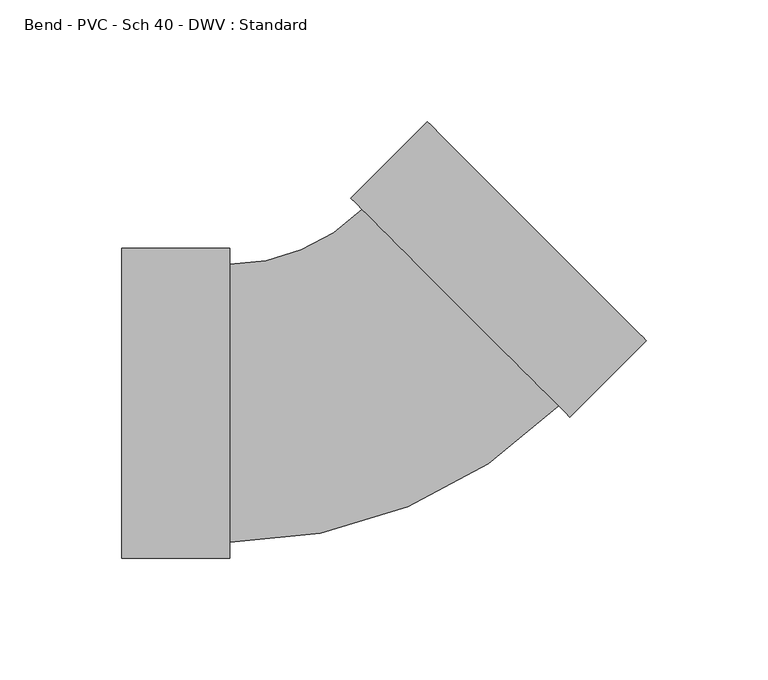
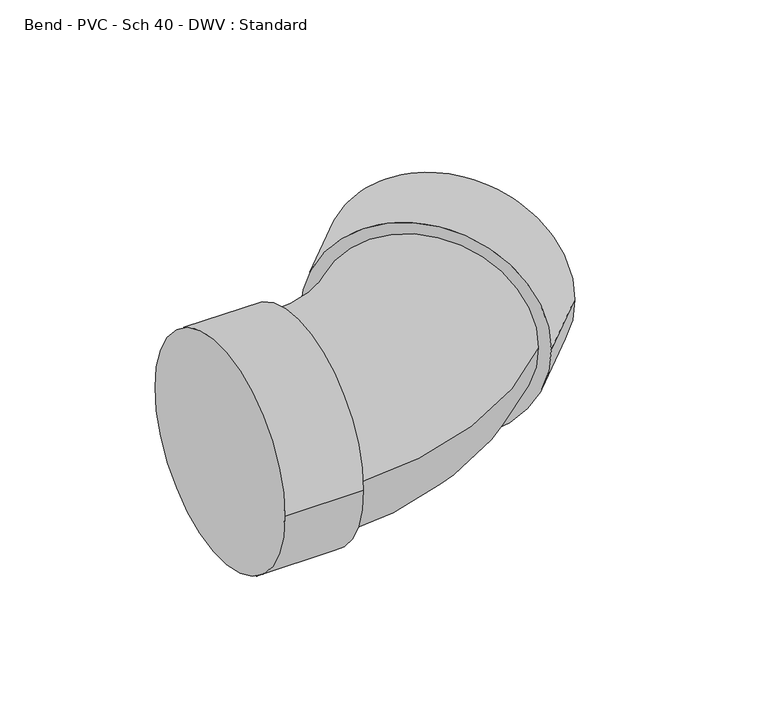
"""IFC4 building model written with IfcOpenShell, lengths in millimetres: pipe fitting geometry, Bend - PVC - Sch 40 - DWV : Standard."""

import ifcopenshell
import ifcopenshell.guid

model = None  # the IFC model being written
_history = None  # IfcOwnerHistory: only IFC2X3 demands one
_inside = {}  # id of a spatial element -> (the spatial element, [elements in it])
_under = {}  # id of a project, library or spatial element -> (it, [spatial elements below it])
_declared = {}  # id of a project -> (the project, [libraries it declares])
_typed = {}  # id of a type object -> (the type object, [elements of that type])
_made_of = {}  # id of a material, layer set ... -> (it, [elements and type objects made of it])


def new_model(schema):
    """Start an empty IFC model of exactly this schema.

    Asked for "IFC4X3", IfcOpenShell would pick the latest addendum, in which some entities
    have other attributes; the version numbers below select the first issue.
    IFC2X3 requires an IfcOwnerHistory on every rooted entity: one is made here for all.
    """
    global model, _history
    if schema == "IFC4X3":
        model = ifcopenshell.file(schema_version=(4, 3, 0, 0))
    else:
        model = ifcopenshell.file(schema=schema)
    _inside.clear()
    _under.clear()
    _declared.clear()
    _typed.clear()
    _made_of.clear()
    _history = None
    if model.schema == "IFC2X3":
        org = make("IfcOrganization", Name="unknown")
        user = make(
            "IfcPersonAndOrganization",
            ThePerson=make("IfcPerson", FamilyName="unknown"),
            TheOrganization=org,
        )
        app = make(
            "IfcApplication",
            ApplicationDeveloper=org,
            Version="unknown",
            ApplicationFullName="unknown",
            ApplicationIdentifier="unknown",
        )
        _history = make(
            "IfcOwnerHistory",
            OwningUser=user,
            OwningApplication=app,
            ChangeAction="ADDED",
            CreationDate=0,
        )
    return model


def make(cls, **values):
    """One entity of the class cls with the attributes given. An attribute that is None is left unset."""
    return model.create_entity(
        cls, **{name: value for name, value in values.items() if value is not None}
    )


def rooted(cls, **values):
    """An entity with a GlobalId (a new one), such as an element, a storey or a relation."""
    return make(cls, GlobalId=ifcopenshell.guid.new(), OwnerHistory=_history, **values)


def si_unit(unit_type, name, prefix=None):
    """IfcSIUnit, for example si_unit("LENGTHUNIT", "METRE", prefix="MILLI")."""
    return make("IfcSIUnit", UnitType=unit_type, Prefix=prefix, Name=name)


def assignment(units):
    """IfcUnitAssignment: the units of a project."""
    return None if units is None else make("IfcUnitAssignment", Units=units)


def point(xyz):
    """IfcCartesianPoint."""
    return None if xyz is None else make("IfcCartesianPoint", Coordinates=xyz)


def direction(xyz):
    """IfcDirection."""
    return None if xyz is None else make("IfcDirection", DirectionRatios=xyz)


def frame(location, z_axis=None, x_axis=None):
    """IfcAxis2Placement3D, a coordinate frame: its origin and axes. An axis left out is left unset."""
    return make(
        "IfcAxis2Placement3D",
        Location=point(location),
        Axis=direction(z_axis),
        RefDirection=direction(x_axis),
    )


def origin():
    """The frame at (0, 0, 0) with its axes left unset."""
    return frame((0.0, 0.0, 0.0))


def place(relative_to, where):
    """IfcLocalPlacement: puts the frame where relative to a parent placement (None: the world)."""
    return make(
        "IfcLocalPlacement", PlacementRelTo=relative_to, RelativePlacement=where
    )


def context(
    kind, dimensions, precision=None, world=None, true_north=None, identifier=None
):
    """IfcGeometricRepresentationContext, for example the 3D "Model" context."""
    return make(
        "IfcGeometricRepresentationContext",
        ContextIdentifier=identifier,
        ContextType=kind,
        CoordinateSpaceDimension=dimensions,
        Precision=precision,
        WorldCoordinateSystem=world,
        TrueNorth=true_north,
    )


def project(units=None, contexts=None):
    """IfcProject with its units and contexts."""
    return rooted(
        "IfcProject",
        Name="project",
        RepresentationContexts=contexts,
        UnitsInContext=assignment(units),
    )


def spatial(cls, under=None, at=None, **own):
    """A site, building, storey or space (cls), placed at a placement, below another one or the project."""
    s = rooted(cls, ObjectPlacement=at, **own)
    if under is not None:
        _under.setdefault(under.id(), (under, []))[1].append(s)
    return s


def circle_curve(where, radius):
    """IfcCircle in the frame where."""
    return make("IfcCircle", Position=where, Radius=radius)


def ellipse_curve(where, semi_axis1, semi_axis2):
    """IfcEllipse in the frame where."""
    return make(
        "IfcEllipse", Position=where, SemiAxis1=semi_axis1, SemiAxis2=semi_axis2
    )


def trimmed(basis, trim1, trim2, sense, master):
    """IfcTrimmedCurve: the piece of a basis curve between two trims."""
    return make(
        "IfcTrimmedCurve",
        BasisCurve=basis,
        Trim1=trim1,
        Trim2=trim2,
        SenseAgreement=sense,
        MasterRepresentation=master,
    )


def shape(context_of_items, identifier, shape_type, items):
    """IfcShapeRepresentation: the items that make up one representation, for example the "Body"."""
    return make(
        "IfcShapeRepresentation",
        ContextOfItems=context_of_items,
        RepresentationIdentifier=identifier,
        RepresentationType=shape_type,
        Items=items,
    )


def source(mapping_origin, context_of_items, identifier, shape_type, items):
    """IfcRepresentationMap: a shape defined once, which mapped items show again and again."""
    return make(
        "IfcRepresentationMap",
        MappingOrigin=mapping_origin,
        MappedRepresentation=shape(context_of_items, identifier, shape_type, items),
    )


def transform(
    local_origin,
    x_axis=None,
    y_axis=None,
    z_axis=None,
    scale=None,
    scale2=None,
    scale3=None,
    uniform=True,
):
    """IfcCartesianTransformationOperator3D, or its non-uniform kind. x_axis, y_axis, z_axis: its Axis1, 2, 3."""
    if uniform:
        return make(
            "IfcCartesianTransformationOperator3D",
            Axis1=direction(x_axis),
            Axis2=direction(y_axis),
            LocalOrigin=point(local_origin),
            Scale=scale,
            Axis3=direction(z_axis),
        )
    return make(
        "IfcCartesianTransformationOperator3DnonUniform",
        Axis1=direction(x_axis),
        Axis2=direction(y_axis),
        LocalOrigin=point(local_origin),
        Scale=scale,
        Axis3=direction(z_axis),
        Scale2=scale2,
        Scale3=scale3,
    )


def mapped(mapping_source, mapping_target):
    """IfcMappedItem: shows the shape of a source again, moved by a transform."""
    return make(
        "IfcMappedItem", MappingSource=mapping_source, MappingTarget=mapping_target
    )


def made_of(thing, what):
    """Note that an element or type object is made of a material, layer set ...; save() writes the relation."""
    if what is not None:
        _made_of.setdefault(what.id(), (what, []))[1].append(thing)
    return thing


def element(
    cls,
    number,
    at=None,
    inside=None,
    cuts=None,
    type_object=None,
    material=None,
    context=None,
    identifier="Body",
    shape_type=None,
    held_by="IfcProductDefinitionShape",
    body=None,
    shapes=None,
    **own,
):
    """One element of the class cls, such as IfcWall. Its Tag is "e" and its number.

    at: its placement. inside: the storey or other place that contains it. cuts: it is an
    opening in that element (IfcRelVoidsElement). A single representation is given by context,
    identifier, shape_type and body (its items); several are given by shapes. held_by: the class
    of the entity that holds the representations. save() writes the other relations.
    """
    e = rooted(cls, Tag="e%d" % number, ObjectPlacement=at, **own)
    if body is not None:
        shapes = [shape(context, identifier, shape_type, body)]
    if shapes is not None:
        e.Representation = make(held_by, Representations=shapes)
    if inside is not None:
        _inside.setdefault(inside.id(), (inside, []))[1].append(e)
    if cuts is not None:
        rooted(
            "IfcRelVoidsElement", RelatingBuildingElement=cuts, RelatedOpeningElement=e
        )
    if type_object is not None:
        _typed.setdefault(type_object.id(), (type_object, []))[1].append(e)
    return made_of(e, material)


def aggregate(whole, parts):
    """IfcRelAggregates: a whole, such as a stair, and the parts it consists of."""
    return rooted("IfcRelAggregates", RelatingObject=whole, RelatedObjects=parts)


def save(model, path):
    """Write the relations noted so far, then the file.

    IfcRelAggregates (storeys below a building ...), IfcRelContainedInSpatialStructure (elements
    in a storey), IfcRelDefinesByType, IfcRelAssociatesMaterial and IfcRelDeclares: one each for
    every whole, place, type object, material and project.
    """
    for whole, parts in _under.values():
        aggregate(whole, parts)
    for where, things in _inside.values():
        rooted(
            "IfcRelContainedInSpatialStructure",
            RelatedElements=things,
            RelatingStructure=where,
        )
    for kind, things in _typed.values():
        rooted("IfcRelDefinesByType", RelatedObjects=things, RelatingType=kind)
    for what, things in _made_of.values():
        rooted("IfcRelAssociatesMaterial", RelatedObjects=things, RelatingMaterial=what)
    for by, libraries in _declared.values():
        rooted("IfcRelDeclares", RelatingContext=by, RelatedDefinitions=libraries)
    model.write(path)


def plane_surface(at):
    """IfcPlane: the flat surface through the origin of the frame at, square to its z axis."""
    return make("IfcPlane", Position=at)


def cylinder_surface(at, radius):
    """IfcCylindricalSurface: all points at the distance radius from the z axis of the frame at."""
    return make("IfcCylindricalSurface", Position=at, Radius=radius)


def revolved_surface(curve, axis_point, axis_direction):
    """IfcSurfaceOfRevolution: the curve turned about the line through axis_point along axis_direction."""
    return make(
        "IfcSurfaceOfRevolution",
        SweptCurve=make("IfcArbitraryOpenProfileDef", ProfileType="CURVE", Curve=curve),
        AxisPosition=make("IfcAxis1Placement", Location=point(axis_point), Axis=direction(axis_direction)),
    )


def advanced_brep(points, edges, surfaces, faces):
    """IfcAdvancedBrep: a solid bounded by faces that lie on surfaces and meet in shared edges.

    An edge is (start, end): straight between two places in points (the first is 0);
    or (start, end, curve); or (start, end, curve, False) where it runs against its curve.
    A face is (place in surfaces, loops), or (place, loops, False) where it looks against
    its surface's normal. A loop lists edges by number (the first is 1), with a minus sign
    where the edge is run from its end to its start. The first loop is the outer one.
    """
    corners = [point(p) for p in points]
    vertices = [make("IfcVertexPoint", VertexGeometry=c) for c in corners]
    made = []
    for start, end, *more in edges:
        made.append(
            make(
                "IfcEdgeCurve",
                EdgeStart=vertices[start],
                EdgeEnd=vertices[end],
                EdgeGeometry=more[0] if more else make("IfcPolyline", Points=[corners[start], corners[end]]),
                SameSense=more[1] if len(more) > 1 else True,
            )
        )
    hull = []
    for where, loops, *sense in faces:
        bounds = []
        for j, loop in enumerate(loops):
            ring = [make("IfcOrientedEdge", EdgeElement=made[abs(k) - 1], Orientation=k > 0) for k in loop]
            bounds.append(
                make(
                    "IfcFaceOuterBound" if j == 0 else "IfcFaceBound",
                    Bound=make("IfcEdgeLoop", EdgeList=ring),
                    Orientation=True,
                )
            )
        hull.append(make("IfcAdvancedFace", Bounds=bounds, FaceSurface=surfaces[where], SameSense=sense[0] if sense else True))
    return make("IfcAdvancedBrep", Outer=make("IfcClosedShell", CfsFaces=hull))


def bend_pvc_sch_40_dwv_standard_279b8fe5(model_context):
    return source(origin(), model_context, "Body", "AdvancedBrep", [
        advanced_brep(
        [(-100.0252, -63.754, 0.0), (-100.0252, 63.754, 0.0), (-55.5752, -63.754, 0.0), (-55.5752, 63.754, 0.0), (-55.5752, -57.15, 0.0), (-55.5752, 57.15, 0.0), (-1.112266, 79.7087713, 0.0), (79.7087354, -1.1148375, 0.0), (84.3783932, -5.784646, 0.0), (-5.7819238, 84.3785798, 0.0), (115.8097966, 25.6457434, 0.0), (25.6494796, 115.8089692, 0.0)],
        [
            (0, 1, circle_curve(frame((-100.0252, 0.0, 0.0), z_axis=(-1.0, 0.0, 0.0), x_axis=(0.0, 1.0, 0.0)), 63.754)),
            (1, 0, circle_curve(frame((-100.0252, 0.0, 0.0), z_axis=(-1.0, 0.0, 0.0), x_axis=(0.0, 1.0, 0.0)), 63.754)),
            (2, 3, circle_curve(frame((-55.5752, 0.0, 0.0), z_axis=(1.0, 0.0, 0.0), x_axis=(0.0, 1.0, 0.0)), 63.754)),
            (3, 2, circle_curve(frame((-55.5752, 0.0, 0.0), z_axis=(1.0, 0.0, 0.0), x_axis=(0.0, 1.0, 0.0)), 63.754)),
            (4, 5, circle_curve(frame((-55.5752, 0.0, 0.0), z_axis=(-1.0, 0.0, 0.0), x_axis=(0.0, 1.0, 0.0)), 57.15)),
            (5, 4, circle_curve(frame((-55.5752, 0.0, 0.0), z_axis=(-1.0, 0.0, 0.0), x_axis=(0.0, 1.0, 0.0)), 57.15)),
            (0, 2),
            (3, 1),
            (6, 5, circle_curve(frame((-55.5752, 134.1734624, 0.0), z_axis=(0.0, 0.0, -1.0), x_axis=(0.0, -1.0, 0.0)), 77.0234624)),
            (4, 7, circle_curve(frame((-55.5752, 134.1734624, 0.0), z_axis=(0.0, 0.0, 1.0), x_axis=(0.0, -1.0, 0.0)), 191.3234624)),
            (7, 6, circle_curve(frame((39.2982347, 39.2969669, 0.0), z_axis=(-0.7071181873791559, -0.7070953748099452, 0.0), x_axis=(-0.7070953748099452, 0.7071181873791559, 0.0)), 57.15)),
            (6, 7, circle_curve(frame((39.2982347, 39.2969669, 0.0), z_axis=(-0.7071181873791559, -0.7070953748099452, 0.0), x_axis=(-0.7070953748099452, 0.7071181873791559, 0.0)), 57.15)),
            (8, 9, circle_curve(frame((39.2982347, 39.2969669, 0.0), z_axis=(-0.7071181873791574, -0.7070953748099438, 0.0), x_axis=(-0.7070953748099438, 0.7071181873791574, 0.0)), 63.754)),
            (9, 8, circle_curve(frame((39.2982347, 39.2969669, 0.0), z_axis=(-0.7071181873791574, -0.7070953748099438, 0.0), x_axis=(-0.7070953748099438, 0.7071181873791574, 0.0)), 63.754)),
            (10, 11, circle_curve(frame((70.7296381, 70.7273563, 0.0), z_axis=(0.7071181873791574, 0.7070953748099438, 0.0), x_axis=(-0.7070953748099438, 0.7071181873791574, 0.0)), 63.754)),
            (11, 10, circle_curve(frame((70.7296381, 70.7273563, 0.0), z_axis=(0.7071181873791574, 0.7070953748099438, 0.0), x_axis=(-0.7070953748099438, 0.7071181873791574, 0.0)), 63.754)),
            (8, 10),
            (11, 9),
        ],
        [
            plane_surface(frame((-100.0252, 0.0, 0.0), z_axis=(-1.0, 0.0, 0.0), x_axis=(0.0, 0.0, 1.0))),
            plane_surface(frame((-55.5752, 0.0, 0.0), z_axis=(1.0, 0.0, 0.0), x_axis=(0.0, 0.0, 1.0))),
            cylinder_surface(frame((-100.0252, 0.0, 0.0), z_axis=(-1.0, 0.0, 0.0), x_axis=(0.0, 1.0, 0.0)), 63.754),
            revolved_surface(trimmed(ellipse_curve(frame((-55.5752, 0.0, 0.0), z_axis=(-1.0, 0.0, 0.0), x_axis=(0.0, 1.0, 0.0)), 57.15, 57.15), [point((-55.5752, -57.15, 0.0))], [point((-55.5752, 57.15, 0.0))], True, "CARTESIAN"), (-55.5752, 134.1734624, 0.0), (0.0, 0.0, 1.0)),
            revolved_surface(trimmed(ellipse_curve(frame((-55.5752, 0.0, 0.0), z_axis=(-1.0, 0.0, 0.0), x_axis=(0.0, 1.0, 0.0)), 57.15, 57.15), [point((-55.5752, 57.15, 0.0))], [point((-55.5752, -57.15, 0.0))], True, "CARTESIAN"), (-55.5752, 134.1734624, 0.0), (0.0, 0.0, 1.0)),
            plane_surface(frame((39.2982347, 39.2969669, 0.0), z_axis=(-0.7071181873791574, -0.7070953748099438, 0.0), x_axis=(0.0, 0.0, 1.0))),
            plane_surface(frame((70.7296381, 70.7273563, 0.0), z_axis=(0.7071181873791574, 0.7070953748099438, 0.0), x_axis=(0.0, 0.0, 1.0))),
            cylinder_surface(frame((39.2982347, 39.2969669, 0.0), z_axis=(-0.7071181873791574, -0.7070953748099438, 0.0), x_axis=(-0.7070953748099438, 0.7071181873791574, 0.0)), 63.754),
        ],
        [
            (0, [[1, 2]]),
            (1, [[3, 4], [5, 6]]),
            (2, [[-1, 7, -4, 8]]),
            (2, [[-2, -8, -3, -7]]),
            (3, [[9, -5, 10, 11]]),
            (4, [[-9, 12, -10, -6]]),
            (5, [[13, 14], [-11, -12]]),
            (6, [[15, 16]]),
            (7, [[-13, 17, -16, 18]]),
            (7, [[-14, -18, -15, -17]]),
        ],
    ),
    ])


if __name__ == "__main__":
    model = new_model("IFC4")
    model_context = context("Model", 3, world=origin())
    ifc_project = project(units=[si_unit("LENGTHUNIT", "METRE", prefix="MILLI")], contexts=[model_context])
    site = spatial("IfcSite", under=ifc_project)
    building = spatial("IfcBuilding", under=site)
    placement = place(None, origin())
    bend_pvc_sch_40_dwv_standard_shape = bend_pvc_sch_40_dwv_standard_279b8fe5(model_context)
    element("IfcPipeFitting", 1, ObjectType="Bend - PVC - Sch 40 - DWV : Standard", at=placement, inside=building, context=model_context, shape_type="MappedRepresentation", body=[
        mapped(bend_pvc_sch_40_dwv_standard_shape, transform((0.0, 0.0, 0.0), x_axis=(1.0, 0.0, 0.0), y_axis=(0.0, 1.0, 0.0), z_axis=(0.0, 0.0, 1.0))),
    ])
    save(model, "model.ifc")
